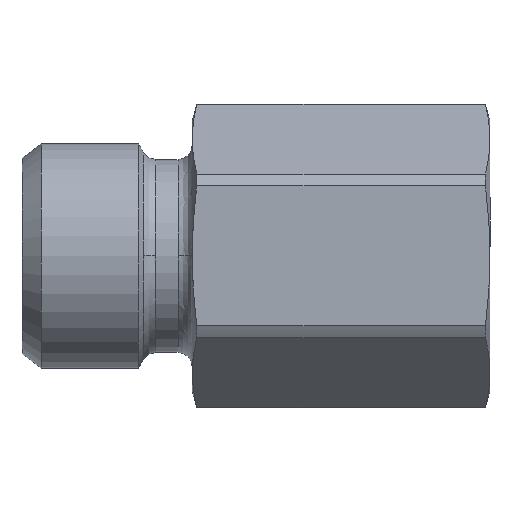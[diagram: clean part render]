
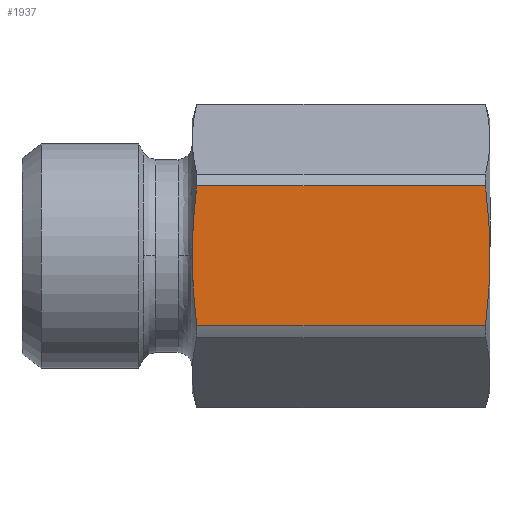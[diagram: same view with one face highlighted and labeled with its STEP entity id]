
A CAD part, top view. The second image highlights one B-rep face of the part: STEP entity #1937.
In plain terms, the highlighted planar face has unit normal (0, 0, 1) as drawn and (1, 0, 0) by its records, which use the part's own axes.
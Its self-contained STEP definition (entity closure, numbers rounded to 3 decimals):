
#1250=CARTESIAN_POINT('',(9.5,0.0,10.5));
#1251=VERTEX_POINT('',#1250);
#1315=CARTESIAN_POINT('',(9.5,-4.923,10.178));
#1316=VERTEX_POINT('',#1315);
#1334=CARTESIAN_POINT('',(9.5,-4.923,-10.178));
#1335=VERTEX_POINT('',#1334);
#1343=CARTESIAN_POINT('',(9.5,-4.923,-10.178));
#1344=DIRECTION('',(0.0,0.0,1.0));
#1345=VECTOR('',#1344,20.357);
#1346=LINE('',#1343,#1345);
#1347=EDGE_CURVE('',#1335,#1316,#1346,.T.);
#1359=CARTESIAN_POINT('',(9.5,4.923,10.178));
#1360=VERTEX_POINT('',#1359);
#1368=CARTESIAN_POINT('',(9.5,4.923,-10.178));
#1369=VERTEX_POINT('',#1368);
#1370=CARTESIAN_POINT('',(9.5,4.923,10.178));
#1371=DIRECTION('',(0.0,0.0,-1.0));
#1372=VECTOR('',#1371,20.357);
#1373=LINE('',#1370,#1372);
#1374=EDGE_CURVE('',#1360,#1369,#1373,.T.);
#1870=CARTESIAN_POINT('',(9.5,4.923,10.178));
#1871=CARTESIAN_POINT('',(9.5,2.315,10.5));
#1872=CARTESIAN_POINT('',(9.5,0.0,10.5));
#1880=(BOUNDED_CURVE()B_SPLINE_CURVE(2,(#1870,#1871,#1872),.UNSPECIFIED.,.F.,.U.)B_SPLINE_CURVE_WITH_KNOTS((3,3),(3.985,9.374),.UNSPECIFIED.)CURVE()GEOMETRIC_REPRESENTATION_ITEM()RATIONAL_B_SPLINE_CURVE((1.047,1.055,1.0))REPRESENTATION_ITEM(''));
#1881=EDGE_CURVE('',#1360,#1251,#1880,.T.);
#1886=CARTESIAN_POINT('',(9.5,-5.485,0.0));
#1887=DIRECTION('',(1.0,0.0,0.0));
#1888=DIRECTION('',(0.0,0.0,-1.0));
#1889=AXIS2_PLACEMENT_3D('',#1886,#1887,#1888);
#1890=PLANE('',#1889);
#1891=ORIENTED_EDGE('',*,*,#1374,.F.);
#1892=ORIENTED_EDGE('',*,*,#1881,.T.);
#1893=CARTESIAN_POINT('',(9.5,0.0,10.5));
#1894=CARTESIAN_POINT('',(9.5,-2.315,10.5));
#1895=CARTESIAN_POINT('',(9.5,-4.923,10.178));
#1903=(BOUNDED_CURVE()B_SPLINE_CURVE(2,(#1893,#1894,#1895),.UNSPECIFIED.,.F.,.U.)B_SPLINE_CURVE_WITH_KNOTS((3,3),(9.374,14.763),.UNSPECIFIED.)CURVE()GEOMETRIC_REPRESENTATION_ITEM()RATIONAL_B_SPLINE_CURVE((1.0,1.055,1.047))REPRESENTATION_ITEM(''));
#1904=EDGE_CURVE('',#1251,#1316,#1903,.T.);
#1905=ORIENTED_EDGE('',*,*,#1904,.T.);
#1906=ORIENTED_EDGE('',*,*,#1347,.F.);
#1907=CARTESIAN_POINT('',(9.5,0.0,-10.5));
#1908=VERTEX_POINT('',#1907);
#1909=CARTESIAN_POINT('',(9.5,-4.923,-10.178));
#1910=CARTESIAN_POINT('',(9.5,-2.315,-10.5));
#1911=CARTESIAN_POINT('',(9.5,0.0,-10.5));
#1919=(BOUNDED_CURVE()B_SPLINE_CURVE(2,(#1909,#1910,#1911),.UNSPECIFIED.,.F.,.U.)B_SPLINE_CURVE_WITH_KNOTS((3,3),(3.985,9.374),.UNSPECIFIED.)CURVE()GEOMETRIC_REPRESENTATION_ITEM()RATIONAL_B_SPLINE_CURVE((1.047,1.055,1.0))REPRESENTATION_ITEM(''));
#1920=EDGE_CURVE('',#1335,#1908,#1919,.T.);
#1921=ORIENTED_EDGE('',*,*,#1920,.T.);
#1922=CARTESIAN_POINT('',(9.5,0.0,-10.5));
#1923=CARTESIAN_POINT('',(9.5,2.315,-10.5));
#1924=CARTESIAN_POINT('',(9.5,4.923,-10.178));
#1932=(BOUNDED_CURVE()B_SPLINE_CURVE(2,(#1922,#1923,#1924),.UNSPECIFIED.,.F.,.U.)B_SPLINE_CURVE_WITH_KNOTS((3,3),(9.374,14.763),.UNSPECIFIED.)CURVE()GEOMETRIC_REPRESENTATION_ITEM()RATIONAL_B_SPLINE_CURVE((1.0,1.055,1.047))REPRESENTATION_ITEM(''));
#1933=EDGE_CURVE('',#1908,#1369,#1932,.T.);
#1934=ORIENTED_EDGE('',*,*,#1933,.T.);
#1935=EDGE_LOOP('',(#1891,#1892,#1905,#1906,#1921,#1934));
#1936=FACE_OUTER_BOUND('',#1935,.T.);
#1937=ADVANCED_FACE('',(#1936),#1890,.T.);
